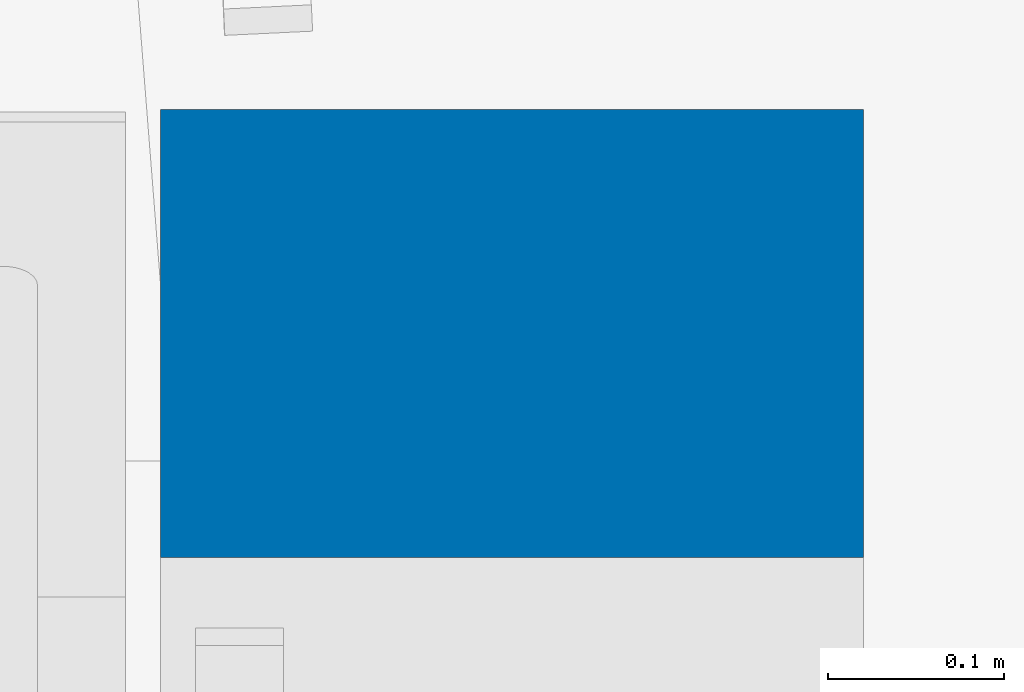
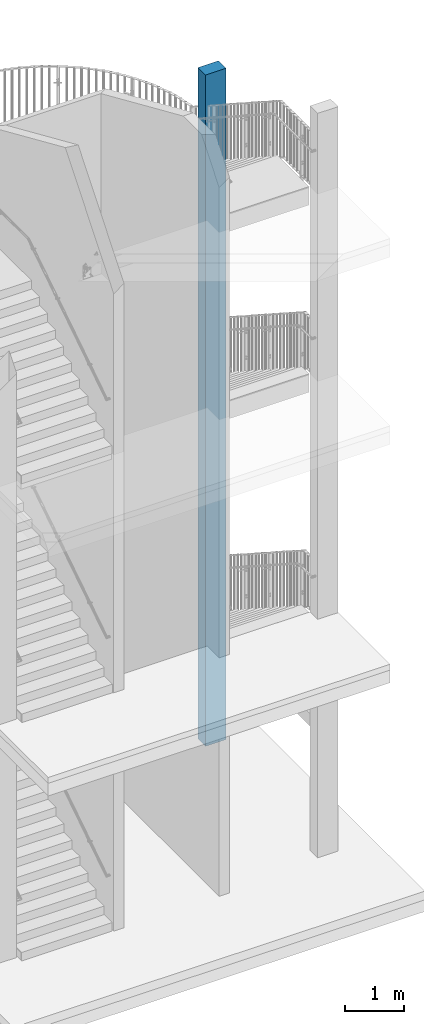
# One storey, part 86 of 296: 1 column.
"""IFC2X3 building model written with IfcOpenShell, lengths in millimetres."""

from ifc_helpers import new_model, entity, si_unit, converted_unit, frame, origin, origin_with_axes, place, context, project, spatial, polyline, outline, extrude, material, element, save


model = new_model("IFC2X3")

# Units and contexts
model_context = context("Model", 3, precision=1e-09, world=origin_with_axes())
ifc_project = project(units=[si_unit("LENGTHUNIT", "METRE", prefix="MILLI"), si_unit("AREAUNIT", "SQUARE_METRE"), si_unit("VOLUMEUNIT", "CUBIC_METRE"), converted_unit("PLANEANGLEUNIT", "DEGREE", entity("IfcPlaneAngleMeasure", 0.01745329), si_unit("PLANEANGLEUNIT", "RADIAN"), dimensions=[0, 0, 0, 0, 0, 0, 0])], contexts=[model_context])

# Site, building, storey
site_placement = place(None, origin_with_axes())
site = spatial("IfcSite", under=ifc_project, at=site_placement, Name="TZD-S?d | Treppenhausgel?nder", CompositionType="ELEMENT")
building_placement = place(site_placement, origin_with_axes())
building = spatial("IfcBuilding", under=site, at=building_placement, Name="Struktur 1", CompositionType="ELEMENT")
storey_placement = place(building_placement, origin_with_axes())
storey = spatial("IfcBuildingStorey", under=building, at=storey_placement, Name="Default Storey", CompositionType="ELEMENT", Elevation=0.0)

# Column
ifc_material = material(Name="C20/25")
column_placement = place(None, frame((6050.0, -127.5, 0.0), z_axis=(0.0, 0.0, -1.0), x_axis=(0.0, 1.0, 0.0)))
element("IfcColumn", 1, at=column_placement, inside=storey, material=ifc_material, Name="Column", ObjectType="Column", context=model_context, shape_type="SweptSolid", body=[
    extrude(outline(polyline([(127.5, -200.0), (127.5, 200.0), (-127.5, 200.0), (-127.5, -200.0), (127.5, -200.0)])), origin(), (0.0, 0.0, -1.0), 13800.0),
])

save(model, "model.ifc")
